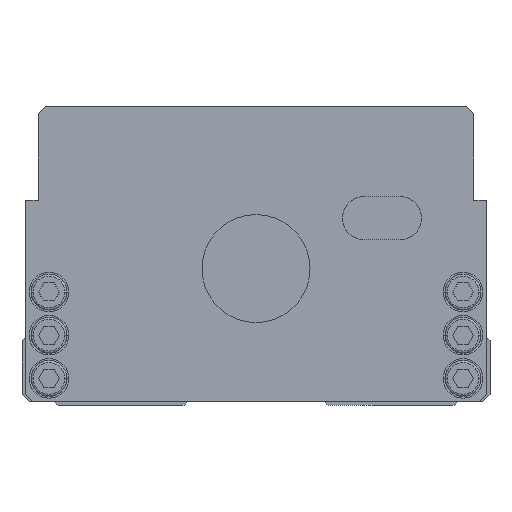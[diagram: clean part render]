
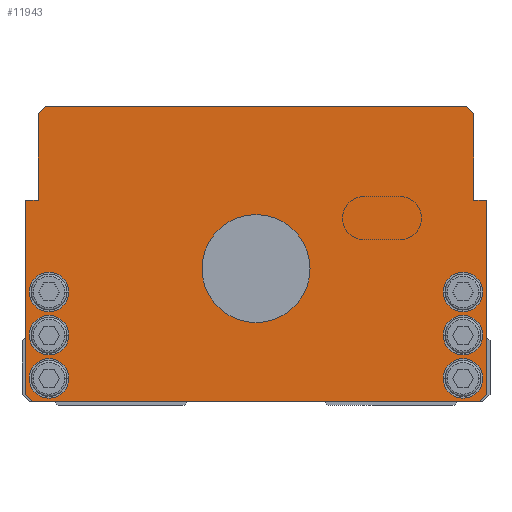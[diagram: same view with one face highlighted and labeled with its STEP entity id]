
A CAD part, front view. The second image highlights one B-rep face of the part: STEP entity #11943.
In plain terms, the highlighted planar face has unit normal (0, -1, 0).
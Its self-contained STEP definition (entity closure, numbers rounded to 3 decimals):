
#4439=VERTEX_POINT('',#13102);
#4507=VERTEX_POINT('',#13178);
#4819=EDGE_CURVE('',#6527,#8699,#13537,.T.);
#4865=VERTEX_POINT('',#13593);
#5051=VERTEX_POINT('',#13798);
#5079=VERTEX_POINT('',#13832);
#5243=EDGE_CURVE('',#6743,#6217,#14010,.T.);
#5389=EDGE_CURVE('',#4507,#10823,#14171,.T.);
#5669=VERTEX_POINT('',#14498);
#5697=VERTEX_POINT('',#14527);
#6217=VERTEX_POINT('',#15112);
#6265=EDGE_CURVE('',#6305,#8913,#15165,.T.);
#6305=VERTEX_POINT('',#15208);
#6527=VERTEX_POINT('',#15461);
#6743=VERTEX_POINT('',#15694);
#6891=EDGE_CURVE('',#4439,#6743,#15859,.T.);
#7207=VERTEX_POINT('',#16213);
#7289=EDGE_CURVE('',#7531,#7447,#16305,.T.);
#7311=EDGE_CURVE('',#9383,#4865,#16327,.T.);
#7365=VERTEX_POINT('',#16385);
#7439=EDGE_CURVE('',#8739,#9383,#16466,.T.);
#7447=VERTEX_POINT('',#16475);
#7531=VERTEX_POINT('',#16563);
#7719=EDGE_CURVE('',#8699,#6527,#16784,.T.);
#7983=EDGE_CURVE('',#5079,#7365,#17078,.T.);
#8367=VERTEX_POINT('',#17497);
#8635=EDGE_CURVE('',#6217,#8739,#17793,.T.);
#8699=VERTEX_POINT('',#17862);
#8739=VERTEX_POINT('',#17906);
#8913=VERTEX_POINT('',#18102);
#8929=EDGE_CURVE('',#9673,#9169,#18118,.T.);
#9169=VERTEX_POINT('',#18386);
#9383=VERTEX_POINT('',#18614);
#9477=EDGE_CURVE('',#7447,#7531,#18715,.T.);
#9649=VERTEX_POINT('',#18900);
#9673=VERTEX_POINT('',#18925);
#9923=EDGE_CURVE('',#8367,#12499,#19200,.T.);
#10297=EDGE_CURVE('',#9649,#4439,#19606,.T.);
#10331=EDGE_CURVE('',#7207,#9649,#19643,.T.);
#10343=EDGE_CURVE('',#5051,#5697,#19656,.T.);
#10591=EDGE_CURVE('',#12499,#8367,#19924,.T.);
#10823=VERTEX_POINT('',#20179);
#11317=EDGE_CURVE('',#5669,#7207,#20744,.T.);
#11445=EDGE_CURVE('',#10823,#4507,#20885,.T.);
#11511=EDGE_CURVE('',#7365,#5079,#20958,.T.);
#11943=ADVANCED_FACE('',(#21445,#21446,#21447,#21448,#21449,#21450,#21451,#21452),#21453,.T.);
#12055=VERTEX_POINT('',#21578);
#12129=EDGE_CURVE('',#4865,#5051,#21676,.T.);
#12185=EDGE_CURVE('',#12055,#5669,#21741,.T.);
#12499=VERTEX_POINT('',#22080);
#12743=EDGE_CURVE('',#5697,#12055,#22362,.T.);
#12757=EDGE_CURVE('',#9169,#9673,#22378,.T.);
#12859=EDGE_CURVE('',#8913,#6305,#22495,.T.);
#13102=CARTESIAN_POINT('',(-62.0,0.0,1.0));
#13178=CARTESIAN_POINT('',(-52.0,0.0,7.5));
#13537=CIRCLE('',#23371,5.5);
#13593=CARTESIAN_POINT('',(-58.5,0.0,83.0));
#13798=CARTESIAN_POINT('',(58.5,0.0,83.0));
#13832=CARTESIAN_POINT('',(-52.0,0.0,31.5));
#14010=LINE('',#24021,#24022);
#14171=CIRCLE('',#24244,5.5);
#14498=CARTESIAN_POINT('',(64.0,0.0,57.0));
#14527=CARTESIAN_POINT('',(60.5,0.0,81.0));
#15112=CARTESIAN_POINT('',(-64.0,0.0,57.0));
#15165=CIRCLE('',#25566,5.5);
#15208=CARTESIAN_POINT('',(52.0,0.0,19.5));
#15461=CARTESIAN_POINT('',(-63.0,0.0,19.5));
#15694=CARTESIAN_POINT('',(-64.0,0.0,3.0));
#15859=LINE('',#26541,#26542);
#16213=CARTESIAN_POINT('',(64.0,0.0,3.0));
#16305=CIRCLE('',#27156,5.5);
#16327=LINE('',#27189,#27190);
#16385=CARTESIAN_POINT('',(-63.0,0.0,31.5));
#16466=LINE('',#27387,#27388);
#16475=CARTESIAN_POINT('',(63.0,0.0,31.5));
#16563=CARTESIAN_POINT('',(52.0,0.0,31.5));
#16784=CIRCLE('',#27808,5.5);
#17078=CIRCLE('',#28194,5.5);
#17497=CARTESIAN_POINT('',(15.0,0.0,38.0));
#17793=LINE('',#29176,#29177);
#17862=CARTESIAN_POINT('',(-52.0,0.0,19.5));
#17906=CARTESIAN_POINT('',(-60.5,0.0,57.0));
#18102=CARTESIAN_POINT('',(63.0,0.0,19.5));
#18118=CIRCLE('',#29626,5.5);
#18386=CARTESIAN_POINT('',(52.0,0.0,7.5));
#18614=CARTESIAN_POINT('',(-60.5,0.0,81.0));
#18715=CIRCLE('',#30427,5.5);
#18900=CARTESIAN_POINT('',(62.0,0.0,1.0));
#18925=CARTESIAN_POINT('',(63.0,0.0,7.5));
#19200=CIRCLE('',#31074,15.0);
#19606=LINE('',#31644,#31645);
#19643=LINE('',#31698,#31699);
#19656=LINE('',#31714,#31715);
#19924=CIRCLE('',#32099,15.0);
#20179=CARTESIAN_POINT('',(-63.0,0.0,7.5));
#20744=LINE('',#33204,#33205);
#20885=CIRCLE('',#33398,5.5);
#20958=CIRCLE('',#33503,5.5);
#21445=FACE_BOUND('',#34195,.T.);
#21446=FACE_BOUND('',#34196,.T.);
#21447=FACE_BOUND('',#34197,.T.);
#21448=FACE_BOUND('',#34198,.T.);
#21449=FACE_BOUND('',#34199,.T.);
#21450=FACE_BOUND('',#34200,.T.);
#21451=FACE_BOUND('',#34201,.T.);
#21452=FACE_OUTER_BOUND('',#34202,.T.);
#21453=PLANE('',#34203);
#21578=CARTESIAN_POINT('',(60.5,0.0,57.0));
#21676=LINE('',#34485,#34486);
#21741=LINE('',#34571,#34572);
#22080=CARTESIAN_POINT('',(-15.0,0.0,38.0));
#22362=LINE('',#35435,#35436);
#22378=CIRCLE('',#35455,5.5);
#22495=CIRCLE('',#35604,5.5);
#23371=AXIS2_PLACEMENT_3D('',#36506,#36507,#36508);
#24021=CARTESIAN_POINT('',(-64.0,0.0,57.0));
#24022=VECTOR('',#37062,1.0);
#24244=AXIS2_PLACEMENT_3D('',#37253,#37254,#37255);
#25566=AXIS2_PLACEMENT_3D('',#38505,#38506,#38507);
#26541=CARTESIAN_POINT('',(-64.0,0.0,3.0));
#26542=VECTOR('',#39282,1.);
#27156=AXIS2_PLACEMENT_3D('',#39795,#39796,#39797);
#27189=CARTESIAN_POINT('',(-58.5,0.0,83.0));
#27190=VECTOR('',#39808,1.);
#27387=CARTESIAN_POINT('',(-60.5,0.0,81.0));
#27388=VECTOR('',#39951,1.0);
#27808=AXIS2_PLACEMENT_3D('',#40290,#40291,#40292);
#28194=AXIS2_PLACEMENT_3D('',#40652,#40653,#40654);
#29176=CARTESIAN_POINT('',(-60.5,0.0,57.0));
#29177=VECTOR('',#41461,1.0);
#29626=AXIS2_PLACEMENT_3D('',#41836,#41837,#41838);
#30427=AXIS2_PLACEMENT_3D('',#42486,#42487,#42488);
#31074=AXIS2_PLACEMENT_3D('',#43043,#43044,#43045);
#31644=CARTESIAN_POINT('',(-62.0,0.0,1.0));
#31645=VECTOR('',#43470,1.0);
#31698=CARTESIAN_POINT('',(62.0,0.0,1.0));
#31699=VECTOR('',#43522,1.);
#31714=CARTESIAN_POINT('',(60.5,0.0,81.0));
#31715=VECTOR('',#43534,1.);
#32099=AXIS2_PLACEMENT_3D('',#43800,#43801,#43802);
#33204=CARTESIAN_POINT('',(64.0,0.0,3.0));
#33205=VECTOR('',#44800,1.0);
#33398=AXIS2_PLACEMENT_3D('',#44951,#44952,#44953);
#33503=AXIS2_PLACEMENT_3D('',#45042,#45043,#45044);
#34195=EDGE_LOOP('',(#45656,#45657));
#34196=EDGE_LOOP('',(#45658,#45659));
#34197=EDGE_LOOP('',(#45660,#45661));
#34198=EDGE_LOOP('',(#45662,#45663));
#34199=EDGE_LOOP('',(#45664,#45665));
#34200=EDGE_LOOP('',(#45666,#45667));
#34201=EDGE_LOOP('',(#45668,#45669));
#34202=EDGE_LOOP('',(#45670,#45671,#45672,#45673,#45674,#45675,#45676,#45677,#45678,#45679,#45680,#45681));
#34203=AXIS2_PLACEMENT_3D('',#45682,#45683,#45684);
#34485=CARTESIAN_POINT('',(58.5,0.0,83.0));
#34486=VECTOR('',#45948,1.0);
#34571=CARTESIAN_POINT('',(64.0,0.0,57.0));
#34572=VECTOR('',#46026,1.0);
#35435=CARTESIAN_POINT('',(60.5,0.0,57.0));
#35436=VECTOR('',#46717,1.0);
#35455=AXIS2_PLACEMENT_3D('',#46735,#46736,#46737);
#35604=AXIS2_PLACEMENT_3D('',#46885,#46886,#46887);
#36506=CARTESIAN_POINT('',(-57.5,0.0,19.5));
#36507=DIRECTION('',(-0.0,1.0,0.0));
#36508=DIRECTION('',(1.0,0.0,0.0));
#37062=DIRECTION('',(0.0,0.0,1.0));
#37253=CARTESIAN_POINT('',(-57.5,0.0,7.5));
#37254=DIRECTION('',(-0.0,1.0,0.0));
#37255=DIRECTION('',(1.0,0.0,0.0));
#38505=CARTESIAN_POINT('',(57.5,0.0,19.5));
#38506=DIRECTION('',(-0.0,1.0,0.0));
#38507=DIRECTION('',(1.0,0.0,0.0));
#39282=DIRECTION('',(-0.707,0.0,0.707));
#39795=CARTESIAN_POINT('',(57.5,0.0,31.5));
#39796=DIRECTION('',(-0.0,1.0,0.0));
#39797=DIRECTION('',(1.0,0.0,0.0));
#39808=DIRECTION('',(0.707,0.0,0.707));
#39951=DIRECTION('',(0.0,0.0,1.0));
#40290=CARTESIAN_POINT('',(-57.5,0.0,19.5));
#40291=DIRECTION('',(-0.0,1.0,0.0));
#40292=DIRECTION('',(1.0,0.0,0.0));
#40652=CARTESIAN_POINT('',(-57.5,0.0,31.5));
#40653=DIRECTION('',(-0.0,1.0,0.0));
#40654=DIRECTION('',(1.0,0.0,0.0));
#41461=DIRECTION('',(1.0,0.0,0.0));
#41836=CARTESIAN_POINT('',(57.5,0.0,7.5));
#41837=DIRECTION('',(-0.0,1.0,0.0));
#41838=DIRECTION('',(1.0,0.0,0.0));
#42486=CARTESIAN_POINT('',(57.5,0.0,31.5));
#42487=DIRECTION('',(-0.0,1.0,0.0));
#42488=DIRECTION('',(1.0,0.0,0.0));
#43043=CARTESIAN_POINT('',(0.0,0.0,38.0));
#43044=DIRECTION('',(-0.0,1.0,0.0));
#43045=DIRECTION('',(1.0,0.0,0.0));
#43470=DIRECTION('',(-1.0,0.0,-0.0));
#43522=DIRECTION('',(-0.707,0.0,-0.707));
#43534=DIRECTION('',(0.707,0.0,-0.707));
#43800=CARTESIAN_POINT('',(0.0,0.0,38.0));
#43801=DIRECTION('',(-0.0,1.0,0.0));
#43802=DIRECTION('',(1.0,0.0,0.0));
#44800=DIRECTION('',(-0.0,0.0,-1.0));
#44951=CARTESIAN_POINT('',(-57.5,0.0,7.5));
#44952=DIRECTION('',(-0.0,1.0,0.0));
#44953=DIRECTION('',(1.0,0.0,0.0));
#45042=CARTESIAN_POINT('',(-57.5,0.0,31.5));
#45043=DIRECTION('',(-0.0,1.0,0.0));
#45044=DIRECTION('',(1.0,0.0,0.0));
#45656=ORIENTED_EDGE('',*,*,#9923,.T.);
#45657=ORIENTED_EDGE('',*,*,#10591,.T.);
#45658=ORIENTED_EDGE('',*,*,#9477,.T.);
#45659=ORIENTED_EDGE('',*,*,#7289,.T.);
#45660=ORIENTED_EDGE('',*,*,#12859,.T.);
#45661=ORIENTED_EDGE('',*,*,#6265,.T.);
#45662=ORIENTED_EDGE('',*,*,#8929,.T.);
#45663=ORIENTED_EDGE('',*,*,#12757,.T.);
#45664=ORIENTED_EDGE('',*,*,#7983,.T.);
#45665=ORIENTED_EDGE('',*,*,#11511,.T.);
#45666=ORIENTED_EDGE('',*,*,#7719,.T.);
#45667=ORIENTED_EDGE('',*,*,#4819,.T.);
#45668=ORIENTED_EDGE('',*,*,#5389,.T.);
#45669=ORIENTED_EDGE('',*,*,#11445,.T.);
#45670=ORIENTED_EDGE('',*,*,#6891,.F.);
#45671=ORIENTED_EDGE('',*,*,#10297,.F.);
#45672=ORIENTED_EDGE('',*,*,#10331,.F.);
#45673=ORIENTED_EDGE('',*,*,#11317,.F.);
#45674=ORIENTED_EDGE('',*,*,#12185,.F.);
#45675=ORIENTED_EDGE('',*,*,#12743,.F.);
#45676=ORIENTED_EDGE('',*,*,#10343,.F.);
#45677=ORIENTED_EDGE('',*,*,#12129,.F.);
#45678=ORIENTED_EDGE('',*,*,#7311,.F.);
#45679=ORIENTED_EDGE('',*,*,#7439,.F.);
#45680=ORIENTED_EDGE('',*,*,#8635,.F.);
#45681=ORIENTED_EDGE('',*,*,#5243,.F.);
#45682=CARTESIAN_POINT('',(0.,0.0,41.562));
#45683=DIRECTION('',(0.0,-1.0,0.0));
#45684=DIRECTION('',(1.0,0.0,0.0));
#45948=DIRECTION('',(1.0,0.0,0.0));
#46026=DIRECTION('',(1.0,0.0,0.0));
#46717=DIRECTION('',(-0.0,0.0,-1.0));
#46735=CARTESIAN_POINT('',(57.5,0.0,7.5));
#46736=DIRECTION('',(-0.0,1.0,0.0));
#46737=DIRECTION('',(1.0,0.0,0.0));
#46885=CARTESIAN_POINT('',(57.5,0.0,19.5));
#46886=DIRECTION('',(-0.0,1.0,0.0));
#46887=DIRECTION('',(1.0,0.0,0.0));
